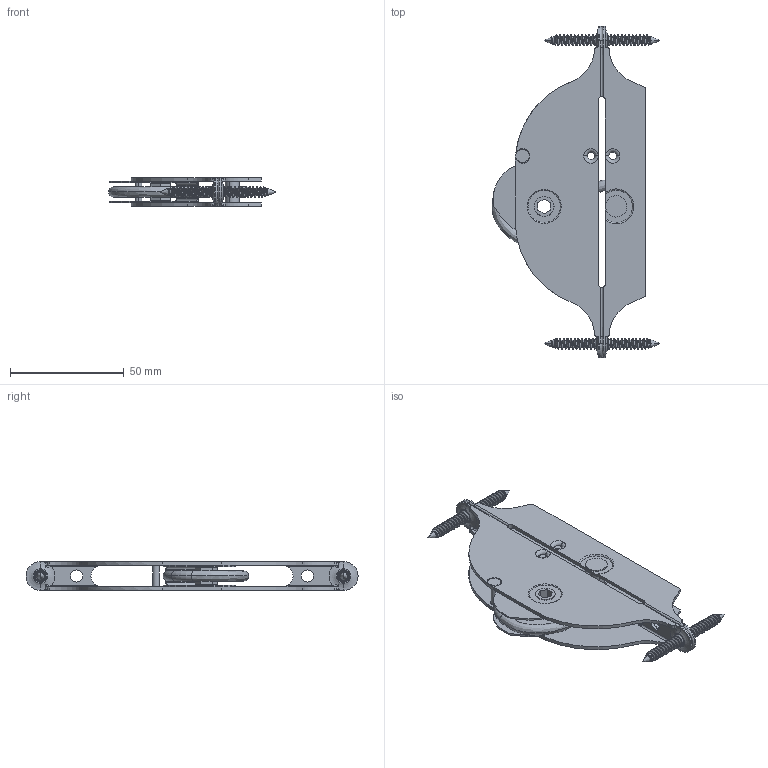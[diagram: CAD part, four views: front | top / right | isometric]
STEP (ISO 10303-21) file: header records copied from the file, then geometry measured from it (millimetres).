
FILE_DESCRIPTION (( 'STEP AP203' ), '1' );
FILE_NAME ('TDS 91-1.STEP', '2014-04-05T23:22:23', ( 'Owner' ), ( '' ), 'SwSTEP 2.0', 'SolidWorks 2011', '' );
FILE_SCHEMA (( 'CONFIG_CONTROL_DESIGN' ));
Length unit declared in the file: inch
Products named in the file (10): SMALL RIVET_.375 LG; LARGE RIVET_.375 LG; S1250-2-1.000; TDS 91-1; T1 T2 T3 LARGE HEX KEY; #10 FHPS_90198A316; S HOOK ASSY TDS 91-1_TDS 36-4A; S-HOOK TDS 91-1; SPRING PLATE TDS 91-1; RS500-2-250
Assembly tree (12 placements, depth 3):
  TDS 91-1
    #10 FHPS_90198A316  x4
    SMALL RIVET_.375 LG
    T1 T2 T3 LARGE HEX KEY
    S1250-2-1.000
    S HOOK ASSY TDS 91-1_TDS 36-4A
      S-HOOK TDS 91-1
      SPRING PLATE TDS 91-1
    LARGE RIVET_.375 LG
    RS500-2-250
Bounding box: 73.56 x 146.05 x 12.7 mm (x, y, z)
Volume: 22069.1 mm3; surface area: 32996.7 mm2
Topology: 11 solids, 11 shells, 700 faces, 1839 edges, 1152 vertices
Faces by surface type: cylinder 294, plane 169, bspline 136, torus 55, cone 46
Entity records: 17093 total; most frequent: CARTESIAN_POINT 6911, ORIENTED_EDGE 2000, DIRECTION 1793, EDGE_CURVE 1000, AXIS2_PLACEMENT_3D 707, VERTEX_POINT 624, EDGE_LOOP 430, ADVANCED_FACE 388
